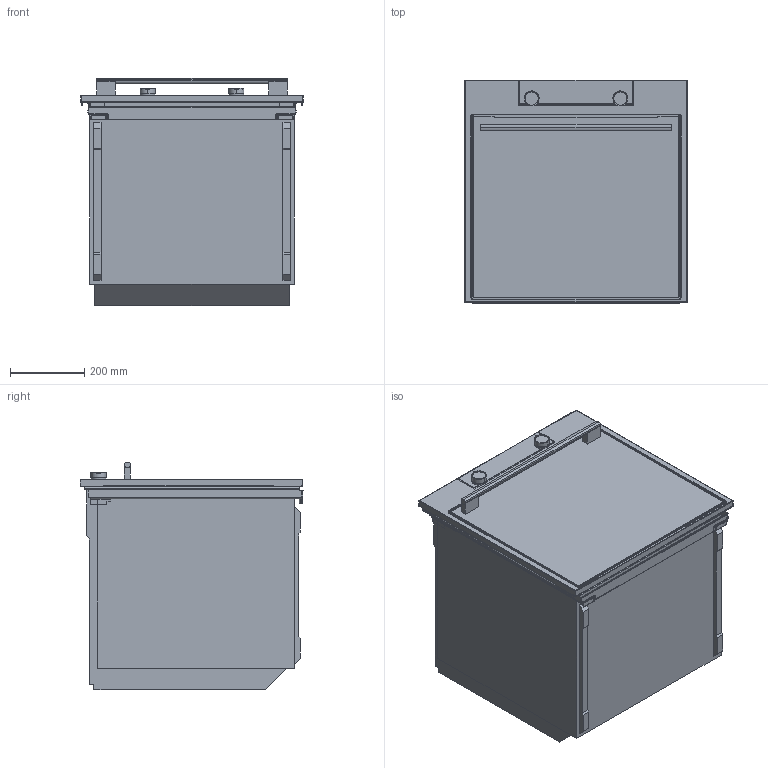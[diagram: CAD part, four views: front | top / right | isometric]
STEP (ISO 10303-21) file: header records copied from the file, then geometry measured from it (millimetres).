
FILE_DESCRIPTION (( 'STEP AP203' ), '1' );
FILE_NAME ('500365_OP8687S.STEP', '2017-09-14T07:37:02', ( '' ), ( '' ), 'SwSTEP 2.0', 'SolidWorks 2016', '' );
FILE_SCHEMA (( 'CONFIG_CONTROL_DESIGN' ));
Length unit declared in the file: millimetre
Products named in the file (22): HANDLE MATRIX; 002_FIX FRAME 60 MF.sldasm-Part-2; PECICA; DOOR FIX FRAME 60 MF^002_FIX FRAME 60 MF; 002_FIX FRAME 60 MF.sldasm-Part-26; 003.sldasm-Part-10; 003_FIX FRAME 60 STEAM.sldasm-Part-32; 002_FIX FRAME 60 MF.sldasm-Part-28; OBOD; 003_FIX FRAME 60 STEAM.sldasm-Part-35; 003_FIX FRAME 60 STEAM.sldasm-Part-19; OVEN 60 MATRIX; KNOB MATRIX; 003_FIX FRAME 60 STEAM.sldasm-Part-29; 500365_OP8687S; 002_FIX FRAME 60 MF; FRAME 60; CEL APARAT BIO 60 ST Dot matrix G.sldasm-Part-69; 003_FIX FRAME 60 STEAM.sldasm-Part-25; CEL APARAT BIO 60 ST Dot matrix G.sldasm-Part-70; 003_FIX FRAME 60 STEAM.sldasm-Part-27; OBOD PECICE
Assembly tree (24 placements, depth 6):
  500365_OP8687S
    OVEN 60 MATRIX
      002_FIX FRAME 60 MF
        002_FIX FRAME 60 MF.sldasm-Part-2
        002_FIX FRAME 60 MF.sldasm-Part-26
        DOOR FIX FRAME 60 MF^002_FIX FRAME 60 MF
          002_FIX FRAME 60 MF.sldasm-Part-28
          FRAME 60
            003_FIX FRAME 60 STEAM.sldasm-Part-19  x2
            003_FIX FRAME 60 STEAM.sldasm-Part-29
          HANDLE MATRIX
            003_FIX FRAME 60 STEAM.sldasm-Part-25  x2
            003_FIX FRAME 60 STEAM.sldasm-Part-27
        KNOB MATRIX  x2
          003_FIX FRAME 60 STEAM.sldasm-Part-32
          003_FIX FRAME 60 STEAM.sldasm-Part-35
      PECICA
        OBOD PECICE
          CEL APARAT BIO 60 ST Dot matrix G.sldasm-Part-69
          CEL APARAT BIO 60 ST Dot matrix G.sldasm-Part-70
      OBOD
        003.sldasm-Part-10
Bounding box: 597 x 600.7 x 610.17 mm (x, y, z)
Volume: 159139733.3 mm3; surface area: 3654372.7 mm2
Topology: 16 solids, 16 shells, 509 faces, 1305 edges, 833 vertices
Faces by surface type: plane 242, cylinder 201, bspline 48, torus 14, sphere 4
Entity records: 18267 total; most frequent: CARTESIAN_POINT 4428, ORIENTED_EDGE 2440, DIRECTION 2376, EDGE_CURVE 1220, AXIS2_PLACEMENT_3D 815, VERTEX_POINT 779, VECTOR 746, LINE 746
